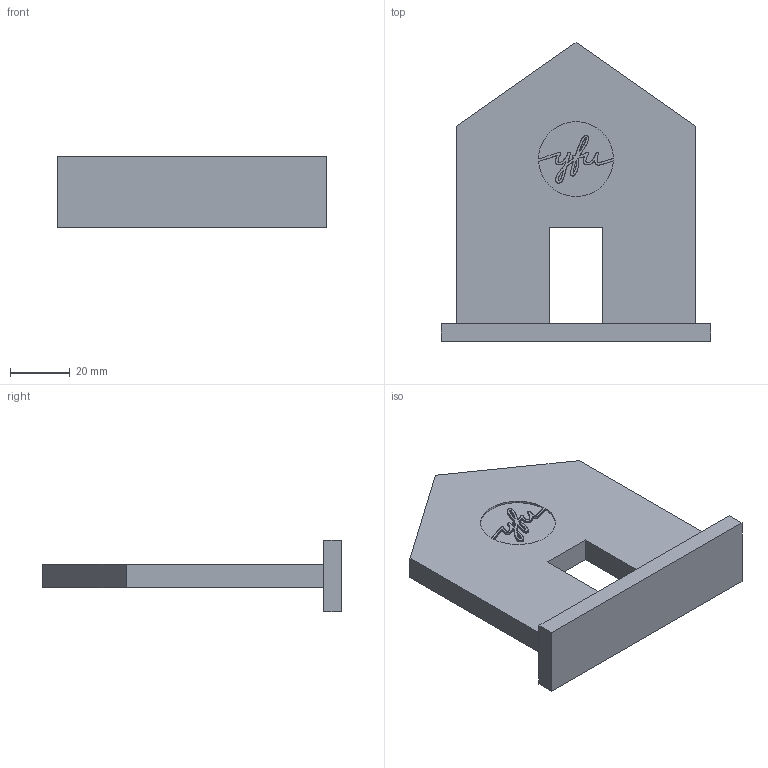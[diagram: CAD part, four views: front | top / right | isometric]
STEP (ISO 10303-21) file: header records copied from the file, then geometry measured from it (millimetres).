
FILE_DESCRIPTION(('Open CASCADE Model'),'2;1');
FILE_NAME('Open CASCADE Shape Model','2026-10-09T16:49:07',('Author'),( 'Open CASCADE'),'Open CASCADE STEP processor 7.8','Open CASCADE 7.8' ,'Unknown');
FILE_SCHEMA(('AUTOMOTIVE_DESIGN { 1 0 10303 214 1 1 1 1 }'));
Products named in the file (1): Open CASCADE STEP translator 7.8 1
Bounding box: 90 x 100 x 24 mm (x, y, z)
Volume: 59047.5 mm3; surface area: 19620.1 mm2
Topology: 1 solids, 1 shells, 3407 faces, 10185 edges, 6790 vertices
Faces by surface type: plane 3407
Entity records: 237802 total; most frequent: CARTESIAN_POINT 47529, DIRECTION 30595, LINE 23779, VECTOR 23779, ORIENTED_EDGE 20370, PCURVE 20370, DEFINITIONAL_REPRESENTATION 20370, EDGE_CURVE 10185
